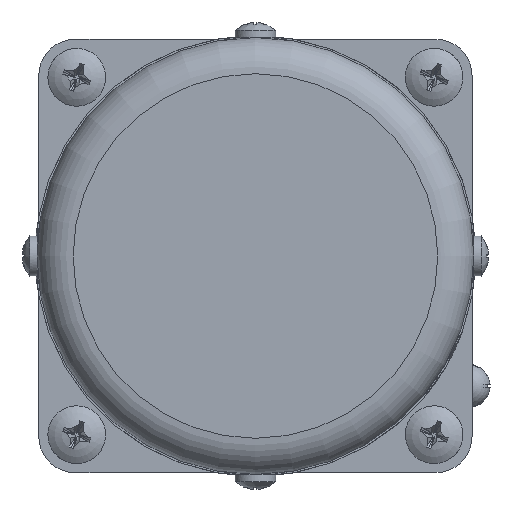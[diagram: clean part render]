
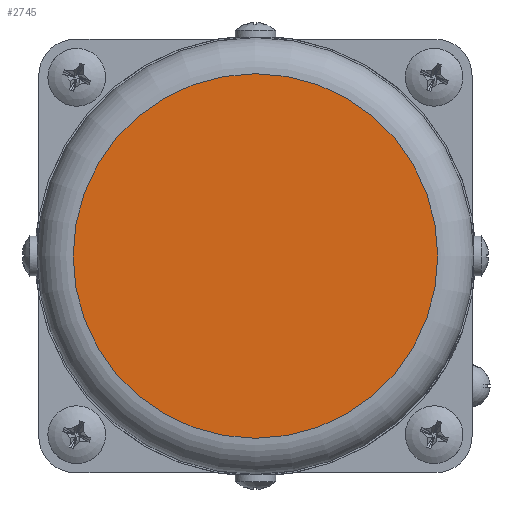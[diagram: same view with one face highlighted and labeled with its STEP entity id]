
A CAD part, left-side view. The second image highlights one B-rep face of the part: STEP entity #2745.
In plain terms, the highlighted planar face has unit normal (-1, 0, 0).
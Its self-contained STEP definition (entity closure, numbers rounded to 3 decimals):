
#1270=FACE_OUTER_BOUND('',#3582,.T.);
#2518=PLANE('',#8267);
#2745=ADVANCED_FACE('',(#1270),#2518,.T.);
#3582=EDGE_LOOP('',(#4319));
#4319=ORIENTED_EDGE('',*,*,#6829,.T.);
#6131=VERTEX_POINT('',#10724);
#6829=EDGE_CURVE('',#6131,#6131,#7749,.T.);
#7749=CIRCLE('',#8266,25.25);
#8266=AXIS2_PLACEMENT_3D('',#10723,#9092,#9093);
#8267=AXIS2_PLACEMENT_3D('',#10725,#9094,#9095);
#9092=DIRECTION('',(-1.,0.,0.));
#9093=DIRECTION('',(0.,-1.,0.));
#9094=DIRECTION('',(-1.,0.,0.));
#9095=DIRECTION('',(0.,-1.,0.));
#10723=CARTESIAN_POINT('',(-111.,0.,0.));
#10724=CARTESIAN_POINT('',(-111.,-25.25,0.));
#10725=CARTESIAN_POINT('',(-111.,0.,0.));
